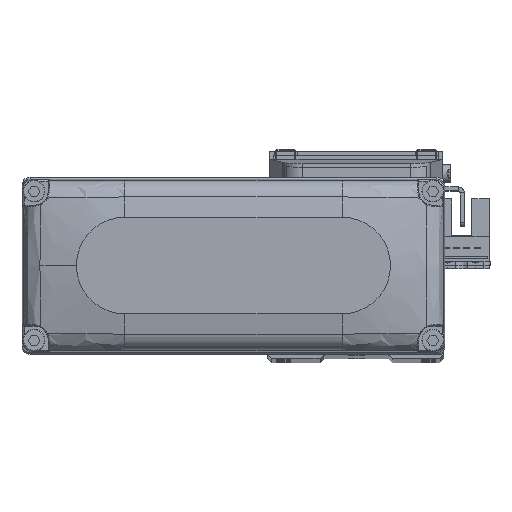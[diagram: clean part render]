
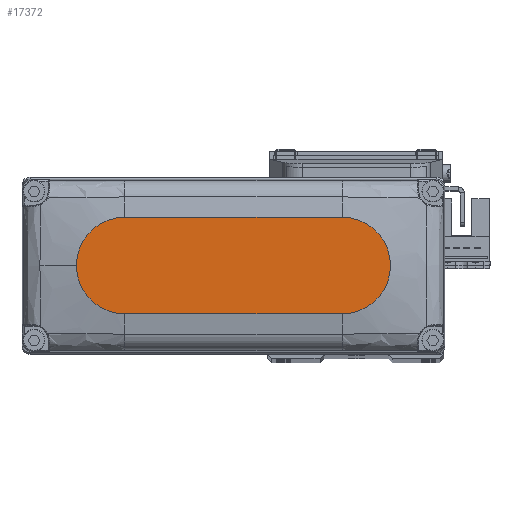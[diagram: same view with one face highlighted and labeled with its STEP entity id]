
A CAD part, top view. The second image highlights one B-rep face of the part: STEP entity #17372.
In plain terms, the highlighted planar face has unit normal (0, 0, 1).
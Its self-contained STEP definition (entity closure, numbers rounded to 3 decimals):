
#545 = CARTESIAN_POINT ( 'NONE',  ( 27., 0., 25. ) ) ;
#1078 = VERTEX_POINT ( 'NONE', #27112 ) ;
#1237 = CARTESIAN_POINT ( 'NONE',  ( -27., -12., 25. ) ) ;
#3168 = ORIENTED_EDGE ( 'NONE', *, *, #72594, .T. ) ;
#3955 = AXIS2_PLACEMENT_3D ( 'NONE', #42843, #66929, #12787 ) ;
#7650 = EDGE_CURVE ( 'NONE', #62349, #57559, #55388, .T. ) ;
#10513 = EDGE_CURVE ( 'NONE', #1078, #62349, #54445, .T. ) ;
#12125 = EDGE_LOOP ( 'NONE', ( #3168, #42365, #62648, #55176, #77525 ) ) ;
#12787 = DIRECTION ( 'NONE',  ( 1., 0., 0. ) ) ;
#15087 = VECTOR ( 'NONE', #72759, 1000. ) ;
#17214 = DIRECTION ( 'NONE',  ( 1., 0., 0. ) ) ;
#17372 = ADVANCED_FACE ( 'NONE', ( #72887 ), #18728, .T. ) ;
#17651 = CARTESIAN_POINT ( 'NONE',  ( 39., 0., 25. ) ) ;
#18728 = PLANE ( 'NONE',  #3955 ) ;
#20371 = AXIS2_PLACEMENT_3D ( 'NONE', #77284, #23136, #47241 ) ;
#22650 = CARTESIAN_POINT ( 'NONE',  ( 27., -12., 25. ) ) ;
#23028 = VERTEX_POINT ( 'NONE', #17651 ) ;
#23136 = DIRECTION ( 'NONE',  ( 0., 0., 1. ) ) ;
#24552 = LINE ( 'NONE', #48655, #15087 ) ;
#24678 = DIRECTION ( 'NONE',  ( 0., 0., 1. ) ) ;
#25374 = DIRECTION ( 'NONE',  ( 1., 0., 0. ) ) ;
#27112 = CARTESIAN_POINT ( 'NONE',  ( -27., 12., 25. ) ) ;
#29838 = EDGE_CURVE ( 'NONE', #23028, #74941, #66019, .T. ) ;
#31958 = AXIS2_PLACEMENT_3D ( 'NONE', #47239, #71345, #17214 ) ;
#35379 = EDGE_CURVE ( 'NONE', #57559, #23028, #73916, .T. ) ;
#36392 = VECTOR ( 'NONE', #25374, 1000. ) ;
#42365 = ORIENTED_EDGE ( 'NONE', *, *, #10513, .T. ) ;
#42843 = CARTESIAN_POINT ( 'NONE',  ( 0., 0., 25. ) ) ;
#45716 = CARTESIAN_POINT ( 'NONE',  ( 27., 12., 25. ) ) ;
#47239 = CARTESIAN_POINT ( 'NONE',  ( 27., 0., 25. ) ) ;
#47241 = DIRECTION ( 'NONE',  ( 1., 0., 0. ) ) ;
#48655 = CARTESIAN_POINT ( 'NONE',  ( -27., 12., 25. ) ) ;
#48776 = DIRECTION ( 'NONE',  ( 1., 0., 0. ) ) ;
#49923 = AXIS2_PLACEMENT_3D ( 'NONE', #545, #24678, #48776 ) ;
#54445 = CIRCLE ( 'NONE', #20371, 12. ) ;
#55176 = ORIENTED_EDGE ( 'NONE', *, *, #35379, .T. ) ;
#55388 = LINE ( 'NONE', #1237, #36392 ) ;
#57559 = VERTEX_POINT ( 'NONE', #22650 ) ;
#62349 = VERTEX_POINT ( 'NONE', #67778 ) ;
#62648 = ORIENTED_EDGE ( 'NONE', *, *, #7650, .T. ) ;
#66019 = CIRCLE ( 'NONE', #31958, 12. ) ;
#66929 = DIRECTION ( 'NONE',  ( 0., 0., 1. ) ) ;
#67778 = CARTESIAN_POINT ( 'NONE',  ( -27., -12., 25. ) ) ;
#71345 = DIRECTION ( 'NONE',  ( 0., 0., 1. ) ) ;
#72594 = EDGE_CURVE ( 'NONE', #74941, #1078, #24552, .T. ) ;
#72759 = DIRECTION ( 'NONE',  ( -1., 0., 0. ) ) ;
#72887 = FACE_OUTER_BOUND ( 'NONE', #12125, .T. ) ;
#73916 = CIRCLE ( 'NONE', #49923, 12. ) ;
#74941 = VERTEX_POINT ( 'NONE', #45716 ) ;
#77284 = CARTESIAN_POINT ( 'NONE',  ( -27., 0., 25. ) ) ;
#77525 = ORIENTED_EDGE ( 'NONE', *, *, #29838, .T. ) ;
